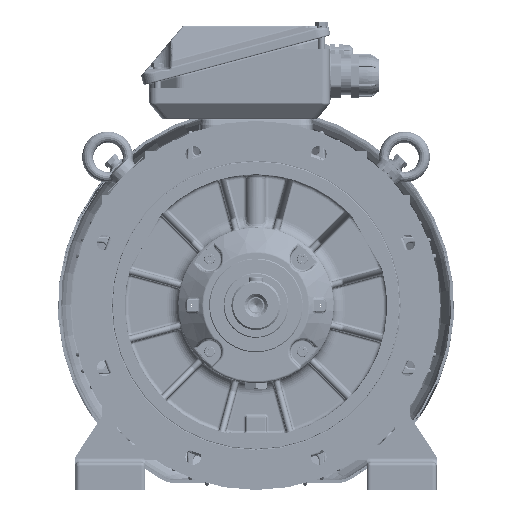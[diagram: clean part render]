
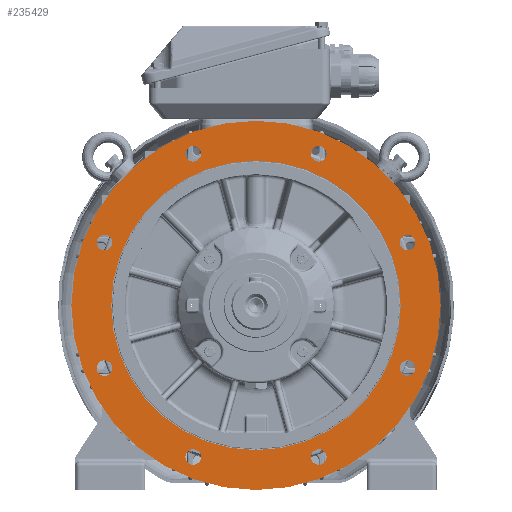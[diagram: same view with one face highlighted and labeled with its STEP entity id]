
A CAD part, front view. The second image highlights one B-rep face of the part: STEP entity #235429.
In plain terms, the highlighted planar face has unit normal (0, -1, 0).
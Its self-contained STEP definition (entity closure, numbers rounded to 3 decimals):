
#39231=PLANE('',#248014);
#75022=ORIENTED_EDGE('',*,*,#108310,.F.);
#75023=ORIENTED_EDGE('',*,*,#108311,.F.);
#75024=ORIENTED_EDGE('',*,*,#108312,.F.);
#75025=ORIENTED_EDGE('',*,*,#108313,.F.);
#75026=ORIENTED_EDGE('',*,*,#108314,.F.);
#75027=ORIENTED_EDGE('',*,*,#108315,.F.);
#75028=ORIENTED_EDGE('',*,*,#108316,.F.);
#75029=ORIENTED_EDGE('',*,*,#108317,.F.);
#75030=ORIENTED_EDGE('',*,*,#106984,.F.);
#75031=ORIENTED_EDGE('',*,*,#108308,.F.);
#106984=EDGE_CURVE('',#144422,#144422,#118698,.T.);
#108308=EDGE_CURVE('',#145277,#145277,#119069,.T.);
#108310=EDGE_CURVE('',#145279,#145279,#119071,.T.);
#108311=EDGE_CURVE('',#145280,#145280,#119072,.T.);
#108312=EDGE_CURVE('',#145281,#145281,#119073,.T.);
#108313=EDGE_CURVE('',#145282,#145282,#119074,.T.);
#108314=EDGE_CURVE('',#145283,#145283,#119075,.T.);
#108315=EDGE_CURVE('',#145284,#145284,#119076,.T.);
#108316=EDGE_CURVE('',#145285,#145285,#119077,.T.);
#108317=EDGE_CURVE('',#145286,#145286,#119078,.T.);
#118698=CIRCLE('',#247205,176.395);
#119069=CIRCLE('',#248012,224.995);
#119071=CIRCLE('',#248015,9.5);
#119072=CIRCLE('',#248016,9.5);
#119073=CIRCLE('',#248017,9.5);
#119074=CIRCLE('',#248018,9.5);
#119075=CIRCLE('',#248019,9.5);
#119076=CIRCLE('',#248020,9.5);
#119077=CIRCLE('',#248021,9.5);
#119078=CIRCLE('',#248022,9.5);
#130530=EDGE_LOOP('',(#75022));
#130531=EDGE_LOOP('',(#75023));
#130532=EDGE_LOOP('',(#75024));
#130533=EDGE_LOOP('',(#75025));
#130534=EDGE_LOOP('',(#75026));
#130535=EDGE_LOOP('',(#75027));
#130536=EDGE_LOOP('',(#75028));
#130537=EDGE_LOOP('',(#75029));
#130538=EDGE_LOOP('',(#75030));
#130539=EDGE_LOOP('',(#75031));
#144422=VERTEX_POINT('',#346486);
#145277=VERTEX_POINT('',#354843);
#145279=VERTEX_POINT('',#354848);
#145280=VERTEX_POINT('',#354850);
#145281=VERTEX_POINT('',#354852);
#145282=VERTEX_POINT('',#354854);
#145283=VERTEX_POINT('',#354856);
#145284=VERTEX_POINT('',#354858);
#145285=VERTEX_POINT('',#354860);
#145286=VERTEX_POINT('',#354862);
#158085=FACE_BOUND('',#130530,.T.);
#158086=FACE_BOUND('',#130531,.T.);
#158087=FACE_BOUND('',#130532,.T.);
#158088=FACE_BOUND('',#130533,.T.);
#158089=FACE_BOUND('',#130534,.T.);
#158090=FACE_BOUND('',#130535,.T.);
#158091=FACE_BOUND('',#130536,.T.);
#158092=FACE_BOUND('',#130537,.T.);
#158093=FACE_BOUND('',#130538,.T.);
#158094=FACE_BOUND('',#130539,.T.);
#235429=ADVANCED_FACE('',(#158085,#158086,#158087,#158088,#158089,#158090,
#158091,#158092,#158093,#158094),#39231,.F.);
#247205=AXIS2_PLACEMENT_3D('',#346485,#282664,#282665);
#248012=AXIS2_PLACEMENT_3D('',#354842,#284747,#284748);
#248014=AXIS2_PLACEMENT_3D('',#354846,#284751,#284752);
#248015=AXIS2_PLACEMENT_3D('',#354847,#284753,#284754);
#248016=AXIS2_PLACEMENT_3D('',#354849,#284755,#284756);
#248017=AXIS2_PLACEMENT_3D('',#354851,#284757,#284758);
#248018=AXIS2_PLACEMENT_3D('',#354853,#284759,#284760);
#248019=AXIS2_PLACEMENT_3D('',#354855,#284761,#284762);
#248020=AXIS2_PLACEMENT_3D('',#354857,#284763,#284764);
#248021=AXIS2_PLACEMENT_3D('',#354859,#284765,#284766);
#248022=AXIS2_PLACEMENT_3D('',#354861,#284767,#284768);
#282664=DIRECTION('',(0.,-1.,0.));
#282665=DIRECTION('',(1.,0.,0.));
#284747=DIRECTION('',(0.,1.,0.));
#284748=DIRECTION('',(-1.,0.,0.));
#284751=DIRECTION('',(0.,1.,0.));
#284752=DIRECTION('',(-1.,0.,0.));
#284753=DIRECTION('',(0.,-1.,0.));
#284754=DIRECTION('',(1.,0.,0.));
#284755=DIRECTION('',(0.,-1.,0.));
#284756=DIRECTION('',(1.,0.,0.));
#284757=DIRECTION('',(0.,-1.,0.));
#284758=DIRECTION('',(1.,0.,0.));
#284759=DIRECTION('',(0.,-1.,0.));
#284760=DIRECTION('',(1.,0.,0.));
#284761=DIRECTION('',(0.,-1.,0.));
#284762=DIRECTION('',(1.,0.,0.));
#284763=DIRECTION('',(0.,-1.,0.));
#284764=DIRECTION('',(1.,0.,0.));
#284765=DIRECTION('',(0.,-1.,0.));
#284766=DIRECTION('',(1.,0.,0.));
#284767=DIRECTION('',(0.,-1.,0.));
#284768=DIRECTION('',(1.,0.,0.));
#346485=CARTESIAN_POINT('',(0.,-84.5,0.));
#346486=CARTESIAN_POINT('',(176.395,-84.5,0.));
#354842=CARTESIAN_POINT('',(0.,-84.5,0.));
#354843=CARTESIAN_POINT('',(-224.995,-84.5,0.));
#354846=CARTESIAN_POINT('',(-176.395,-84.5,0.));
#354847=CARTESIAN_POINT('',(184.776,-84.5,-76.537));
#354848=CARTESIAN_POINT('',(194.276,-84.5,-76.537));
#354849=CARTESIAN_POINT('',(76.537,-84.5,-184.776));
#354850=CARTESIAN_POINT('',(86.037,-84.5,-184.776));
#354851=CARTESIAN_POINT('',(-76.537,-84.5,-184.776));
#354852=CARTESIAN_POINT('',(-67.037,-84.5,-184.776));
#354853=CARTESIAN_POINT('',(-184.776,-84.5,-76.537));
#354854=CARTESIAN_POINT('',(-175.276,-84.5,-76.537));
#354855=CARTESIAN_POINT('',(-184.776,-84.5,76.537));
#354856=CARTESIAN_POINT('',(-175.276,-84.5,76.537));
#354857=CARTESIAN_POINT('',(-76.537,-84.5,184.776));
#354858=CARTESIAN_POINT('',(-67.037,-84.5,184.776));
#354859=CARTESIAN_POINT('',(76.537,-84.5,184.776));
#354860=CARTESIAN_POINT('',(86.037,-84.5,184.776));
#354861=CARTESIAN_POINT('',(184.776,-84.5,76.537));
#354862=CARTESIAN_POINT('',(194.276,-84.5,76.537));
